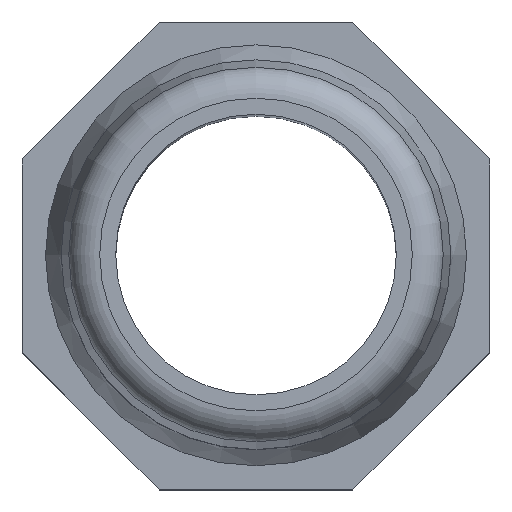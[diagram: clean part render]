
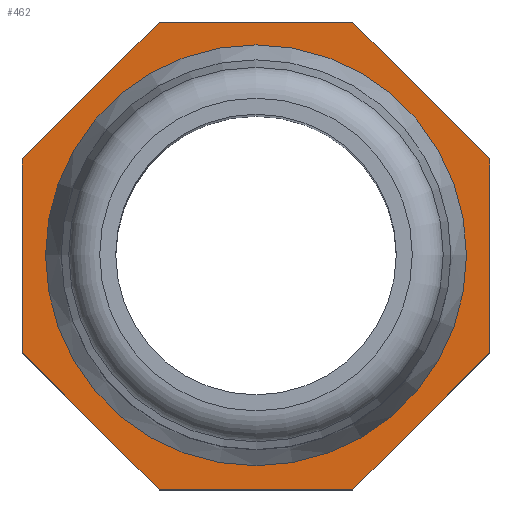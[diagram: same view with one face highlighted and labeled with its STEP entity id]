
A CAD part, top view. The second image highlights one B-rep face of the part: STEP entity #462.
In plain terms, the highlighted planar face has unit normal (0, 0, 1).
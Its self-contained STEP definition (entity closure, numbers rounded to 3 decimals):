
#21=LINE('',#4132,#48);
#22=LINE('',#4134,#49);
#23=LINE('',#4136,#50);
#24=LINE('',#4138,#51);
#25=LINE('',#4140,#52);
#26=LINE('',#4142,#53);
#27=LINE('',#4144,#54);
#28=LINE('',#4145,#55);
#48=VECTOR('',#568,12.426);
#49=VECTOR('',#569,12.426);
#50=VECTOR('',#570,12.426);
#51=VECTOR('',#571,12.426);
#52=VECTOR('',#572,12.426);
#53=VECTOR('',#573,12.426);
#54=VECTOR('',#574,12.426);
#55=VECTOR('',#575,12.426);
#90=PLANE('',#500);
#115=FACE_BOUND('',#177,.T.);
#140=FACE_OUTER_BOUND('',#176,.T.);
#176=EDGE_LOOP('',(#371,#372,#373,#374,#375,#376,#377,#378));
#177=EDGE_LOOP('',(#379));
#222=CIRCLE('',#501,13.);
#249=VERTEX_POINT('',#4130);
#250=VERTEX_POINT('',#4131);
#251=VERTEX_POINT('',#4133);
#252=VERTEX_POINT('',#4135);
#253=VERTEX_POINT('',#4137);
#254=VERTEX_POINT('',#4139);
#255=VERTEX_POINT('',#4141);
#256=VERTEX_POINT('',#4143);
#257=VERTEX_POINT('',#4146);
#299=EDGE_CURVE('',#249,#250,#21,.T.);
#300=EDGE_CURVE('',#250,#251,#22,.T.);
#301=EDGE_CURVE('',#251,#252,#23,.T.);
#302=EDGE_CURVE('',#252,#253,#24,.T.);
#303=EDGE_CURVE('',#253,#254,#25,.T.);
#304=EDGE_CURVE('',#254,#255,#26,.T.);
#305=EDGE_CURVE('',#255,#256,#27,.T.);
#306=EDGE_CURVE('',#256,#249,#28,.T.);
#307=EDGE_CURVE('',#257,#257,#222,.T.);
#371=ORIENTED_EDGE('',*,*,#299,.T.);
#372=ORIENTED_EDGE('',*,*,#300,.T.);
#373=ORIENTED_EDGE('',*,*,#301,.T.);
#374=ORIENTED_EDGE('',*,*,#302,.T.);
#375=ORIENTED_EDGE('',*,*,#303,.T.);
#376=ORIENTED_EDGE('',*,*,#304,.T.);
#377=ORIENTED_EDGE('',*,*,#305,.T.);
#378=ORIENTED_EDGE('',*,*,#306,.T.);
#379=ORIENTED_EDGE('',*,*,#307,.F.);
#462=ADVANCED_FACE('',(#140,#115),#90,.T.);
#500=AXIS2_PLACEMENT_3D('',#4129,#566,#567);
#501=AXIS2_PLACEMENT_3D('',#4147,#576,#577);
#566=DIRECTION('center_axis',(0.,0.,1.));
#567=DIRECTION('ref_axis',(1.,0.,0.));
#568=DIRECTION('',(-0.707,-0.707,0.));
#569=DIRECTION('',(0.,-1.,0.));
#570=DIRECTION('',(0.707,-0.707,0.));
#571=DIRECTION('',(1.,0.,0.));
#572=DIRECTION('',(0.707,0.707,0.));
#573=DIRECTION('',(0.,1.,0.));
#574=DIRECTION('',(-0.707,0.707,0.));
#575=DIRECTION('',(-1.,0.,0.));
#576=DIRECTION('center_axis',(0.,0.,1.));
#577=DIRECTION('ref_axis',(1.,0.,0.));
#4129=CARTESIAN_POINT('Origin',(0.,0.,28.));
#4130=CARTESIAN_POINT('',(-6.213,15.,28.));
#4131=CARTESIAN_POINT('',(-15.,6.213,28.));
#4132=CARTESIAN_POINT('',(-6.213,15.,28.));
#4133=CARTESIAN_POINT('',(-15.,-6.213,28.));
#4134=CARTESIAN_POINT('',(-15.,6.213,28.));
#4135=CARTESIAN_POINT('',(-6.213,-15.,28.));
#4136=CARTESIAN_POINT('',(-15.,-6.213,28.));
#4137=CARTESIAN_POINT('',(6.213,-15.,28.));
#4138=CARTESIAN_POINT('',(-6.213,-15.,28.));
#4139=CARTESIAN_POINT('',(15.,-6.213,28.));
#4140=CARTESIAN_POINT('',(6.213,-15.,28.));
#4141=CARTESIAN_POINT('',(15.,6.213,28.));
#4142=CARTESIAN_POINT('',(15.,-6.213,28.));
#4143=CARTESIAN_POINT('',(6.213,15.,28.));
#4144=CARTESIAN_POINT('',(15.,6.213,28.));
#4145=CARTESIAN_POINT('',(6.213,15.,28.));
#4146=CARTESIAN_POINT('',(-13.,0.,28.));
#4147=CARTESIAN_POINT('Origin',(0.,0.,28.));
